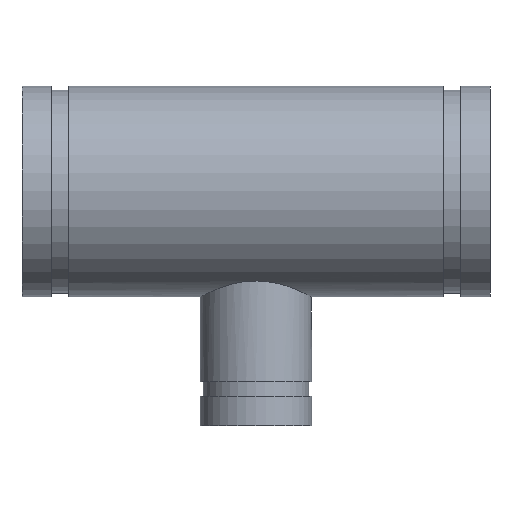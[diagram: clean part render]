
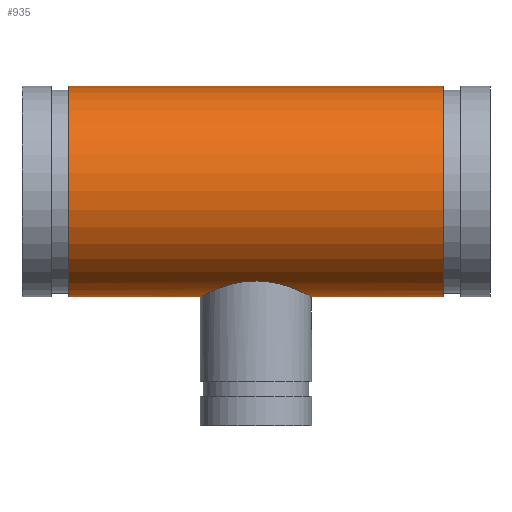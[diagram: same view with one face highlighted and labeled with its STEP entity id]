
A CAD part, top view. The second image highlights one B-rep face of the part: STEP entity #935.
In plain terms, the highlighted cylindrical face has radius 57.15 mm (diameter 114.3 mm), a full revolution.
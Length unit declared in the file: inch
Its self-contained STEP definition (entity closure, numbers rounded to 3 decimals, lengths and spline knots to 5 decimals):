
#61=FACE_BOUND('',#222,.T.);
#67=B_SPLINE_CURVE_WITH_KNOTS('',3,(#1807,#1808,#1809,#1810,#1811,#1812,
#1813,#1814,#1815,#1816,#1817,#1818,#1819,#1820,#1821,#1822,#1823,#1824),
 .UNSPECIFIED.,.F.,.F.,(4,2,2,2,2,2,2,2,4),(0.,0.58229,1.16457,
1.74686,2.32915,2.9094,3.48965,4.0699,
4.65015),.UNSPECIFIED.);
#68=B_SPLINE_CURVE_WITH_KNOTS('',3,(#1825,#1826,#1827,#1828,#1829,#1830,
#1831,#1832,#1833,#1834,#1835,#1836,#1837,#1838,#1839,#1840,#1841,#1842,
#1843,#1844,#1845,#1846,#1847,#1848,#1849,#1850,#1851,#1852,#1853,#1854,
#1855,#1856,#1857,#1858,#1859,#1860,#1861,#1862,#1863,#1864,#1865,#1866,
#1867,#1868,#1869,#1870,#1871,#1872,#1873,#1874),.UNSPECIFIED.,.F.,.F.,
(4,2,2,2,2,2,2,2,2,2,2,2,2,2,2,2,2,2,2,2,2,2,2,2,4),(4.65015,5.2304,
5.81064,6.39089,6.97114,7.55343,8.13572,
8.718,9.30029,9.88258,10.46486,11.04715,
11.62944,12.20969,12.78994,13.37019,13.95044,
14.53069,15.11094,15.69119,16.27144,16.85372,
17.43601,18.01829,18.60058),.UNSPECIFIED.);
#81=CYLINDRICAL_SURFACE('',#1104,2.25);
#103=LINE('',#1804,#125);
#125=VECTOR('',#1432,2.25);
#171=FACE_OUTER_BOUND('',#221,.T.);
#221=EDGE_LOOP('',(#814,#815,#816,#817));
#222=EDGE_LOOP('',(#818,#819));
#326=CIRCLE('',#1087,2.25);
#337=CIRCLE('',#1103,2.25);
#424=VERTEX_POINT('',#1772);
#435=VERTEX_POINT('',#1801);
#436=VERTEX_POINT('',#1805);
#437=VERTEX_POINT('',#1806);
#552=EDGE_CURVE('',#424,#424,#326,.T.);
#565=EDGE_CURVE('',#435,#435,#337,.T.);
#566=EDGE_CURVE('',#435,#424,#103,.T.);
#567=EDGE_CURVE('',#436,#437,#67,.T.);
#568=EDGE_CURVE('',#437,#436,#68,.T.);
#814=ORIENTED_EDGE('',*,*,#565,.T.);
#815=ORIENTED_EDGE('',*,*,#566,.T.);
#816=ORIENTED_EDGE('',*,*,#552,.T.);
#817=ORIENTED_EDGE('',*,*,#566,.F.);
#818=ORIENTED_EDGE('',*,*,#567,.T.);
#819=ORIENTED_EDGE('',*,*,#568,.T.);
#935=ADVANCED_FACE('',(#171,#61),#81,.T.);
#1087=AXIS2_PLACEMENT_3D('',#1773,#1394,#1395);
#1103=AXIS2_PLACEMENT_3D('',#1802,#1428,#1429);
#1104=AXIS2_PLACEMENT_3D('',#1803,#1430,#1431);
#1394=DIRECTION('center_axis',(-1.,0.,0.));
#1395=DIRECTION('ref_axis',(0.,-1.,0.));
#1428=DIRECTION('center_axis',(1.,0.,0.));
#1429=DIRECTION('ref_axis',(0.,-1.,0.));
#1430=DIRECTION('center_axis',(-1.,0.,0.));
#1431=DIRECTION('ref_axis',(0.,-1.,0.));
#1432=DIRECTION('',(1.,0.,0.));
#1772=CARTESIAN_POINT('',(4.,2.25,0.));
#1773=CARTESIAN_POINT('Origin',(4.,0.,0.));
#1801=CARTESIAN_POINT('',(-4.,2.25,0.));
#1802=CARTESIAN_POINT('Origin',(-4.,0.,0.));
#1803=CARTESIAN_POINT('Origin',(5.,0.,0.));
#1804=CARTESIAN_POINT('',(5.,2.25,0.));
#1805=CARTESIAN_POINT('',(0.,-1.91111,-1.1875));
#1806=CARTESIAN_POINT('',(-1.1875,-2.25,0.));
#1807=CARTESIAN_POINT('Ctrl Pts',(0.,-1.91111,
-1.1875));
#1808=CARTESIAN_POINT('Ctrl Pts',(-0.07642,-1.91111,
-1.1875));
#1809=CARTESIAN_POINT('Ctrl Pts',(-0.15478,-1.91583,
-1.18001));
#1810=CARTESIAN_POINT('Ctrl Pts',(-0.3095,-1.93449,
-1.14917));
#1811=CARTESIAN_POINT('Ctrl Pts',(-0.38586,-1.94839,
-1.12583));
#1812=CARTESIAN_POINT('Ctrl Pts',(-0.5315,-1.98238,
-1.06485));
#1813=CARTESIAN_POINT('Ctrl Pts',(-0.60092,-2.00244,
-1.02715));
#1814=CARTESIAN_POINT('Ctrl Pts',(-0.72902,-2.04454,
-0.94056));
#1815=CARTESIAN_POINT('Ctrl Pts',(-0.78772,-2.06654,
-0.89166));
#1816=CARTESIAN_POINT('Ctrl Pts',(-0.89148,-2.10828,
-0.7879));
#1817=CARTESIAN_POINT('Ctrl Pts',(-0.94035,-2.12958,-0.7293));
#1818=CARTESIAN_POINT('Ctrl Pts',(-1.02701,-2.16924,-0.60116));
#1819=CARTESIAN_POINT('Ctrl Pts',(-1.0648,-2.18757,-0.53161));
#1820=CARTESIAN_POINT('Ctrl Pts',(-1.1259,-2.21795,-0.38571));
#1821=CARTESIAN_POINT('Ctrl Pts',(-1.14925,-2.23001,-0.30921));
#1822=CARTESIAN_POINT('Ctrl Pts',(-1.18006,-2.24604,-0.15443));
#1823=CARTESIAN_POINT('Ctrl Pts',(-1.1875,-2.25,-0.07615));
#1824=CARTESIAN_POINT('Ctrl Pts',(-1.1875,-2.25,0.));
#1825=CARTESIAN_POINT('Ctrl Pts',(-1.1875,-2.25,0.));
#1826=CARTESIAN_POINT('Ctrl Pts',(-1.1875,-2.25,0.07615));
#1827=CARTESIAN_POINT('Ctrl Pts',(-1.18006,-2.24604,0.15443));
#1828=CARTESIAN_POINT('Ctrl Pts',(-1.14925,-2.23001,0.30921));
#1829=CARTESIAN_POINT('Ctrl Pts',(-1.1259,-2.21795,0.38571));
#1830=CARTESIAN_POINT('Ctrl Pts',(-1.0648,-2.18757,0.53161));
#1831=CARTESIAN_POINT('Ctrl Pts',(-1.02701,-2.16924,0.60116));
#1832=CARTESIAN_POINT('Ctrl Pts',(-0.94035,-2.12958,0.7293));
#1833=CARTESIAN_POINT('Ctrl Pts',(-0.89148,-2.10828,
0.7879));
#1834=CARTESIAN_POINT('Ctrl Pts',(-0.78772,-2.06654,
0.89166));
#1835=CARTESIAN_POINT('Ctrl Pts',(-0.72902,-2.04454,
0.94056));
#1836=CARTESIAN_POINT('Ctrl Pts',(-0.60092,-2.00244,
1.02715));
#1837=CARTESIAN_POINT('Ctrl Pts',(-0.5315,-1.98238,
1.06485));
#1838=CARTESIAN_POINT('Ctrl Pts',(-0.38586,-1.94839,
1.12583));
#1839=CARTESIAN_POINT('Ctrl Pts',(-0.3095,-1.93449,
1.14917));
#1840=CARTESIAN_POINT('Ctrl Pts',(-0.15478,-1.91583,
1.18001));
#1841=CARTESIAN_POINT('Ctrl Pts',(-0.07642,-1.91111,
1.1875));
#1842=CARTESIAN_POINT('Ctrl Pts',(0.07642,-1.91111,
1.1875));
#1843=CARTESIAN_POINT('Ctrl Pts',(0.15478,-1.91583,1.18001));
#1844=CARTESIAN_POINT('Ctrl Pts',(0.3095,-1.93449,1.14917));
#1845=CARTESIAN_POINT('Ctrl Pts',(0.38586,-1.94839,1.12583));
#1846=CARTESIAN_POINT('Ctrl Pts',(0.5315,-1.98238,1.06485));
#1847=CARTESIAN_POINT('Ctrl Pts',(0.60092,-2.00244,1.02715));
#1848=CARTESIAN_POINT('Ctrl Pts',(0.72902,-2.04454,0.94056));
#1849=CARTESIAN_POINT('Ctrl Pts',(0.78772,-2.06654,0.89166));
#1850=CARTESIAN_POINT('Ctrl Pts',(0.89148,-2.10828,0.7879));
#1851=CARTESIAN_POINT('Ctrl Pts',(0.94035,-2.12958,0.7293));
#1852=CARTESIAN_POINT('Ctrl Pts',(1.02701,-2.16924,0.60116));
#1853=CARTESIAN_POINT('Ctrl Pts',(1.0648,-2.18757,0.53161));
#1854=CARTESIAN_POINT('Ctrl Pts',(1.1259,-2.21795,0.38571));
#1855=CARTESIAN_POINT('Ctrl Pts',(1.14925,-2.23001,0.30921));
#1856=CARTESIAN_POINT('Ctrl Pts',(1.18006,-2.24604,0.15443));
#1857=CARTESIAN_POINT('Ctrl Pts',(1.1875,-2.25,0.07615));
#1858=CARTESIAN_POINT('Ctrl Pts',(1.1875,-2.25,-0.07615));
#1859=CARTESIAN_POINT('Ctrl Pts',(1.18006,-2.24604,-0.15443));
#1860=CARTESIAN_POINT('Ctrl Pts',(1.14925,-2.23001,-0.30921));
#1861=CARTESIAN_POINT('Ctrl Pts',(1.1259,-2.21795,-0.38571));
#1862=CARTESIAN_POINT('Ctrl Pts',(1.0648,-2.18757,-0.53161));
#1863=CARTESIAN_POINT('Ctrl Pts',(1.02701,-2.16924,-0.60116));
#1864=CARTESIAN_POINT('Ctrl Pts',(0.94035,-2.12958,-0.7293));
#1865=CARTESIAN_POINT('Ctrl Pts',(0.89148,-2.10828,-0.7879));
#1866=CARTESIAN_POINT('Ctrl Pts',(0.78772,-2.06654,-0.89166));
#1867=CARTESIAN_POINT('Ctrl Pts',(0.72902,-2.04454,-0.94056));
#1868=CARTESIAN_POINT('Ctrl Pts',(0.60092,-2.00244,-1.02715));
#1869=CARTESIAN_POINT('Ctrl Pts',(0.5315,-1.98238,-1.06485));
#1870=CARTESIAN_POINT('Ctrl Pts',(0.38586,-1.94839,-1.12583));
#1871=CARTESIAN_POINT('Ctrl Pts',(0.3095,-1.93449,-1.14917));
#1872=CARTESIAN_POINT('Ctrl Pts',(0.15478,-1.91583,-1.18001));
#1873=CARTESIAN_POINT('Ctrl Pts',(0.07642,-1.91111,
-1.1875));
#1874=CARTESIAN_POINT('Ctrl Pts',(0.,-1.91111,
-1.1875));
